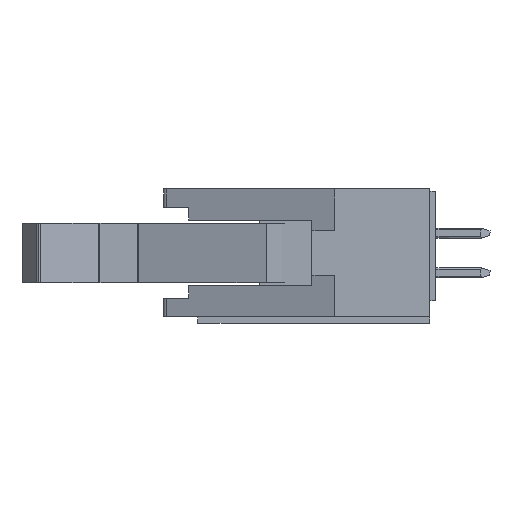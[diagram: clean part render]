
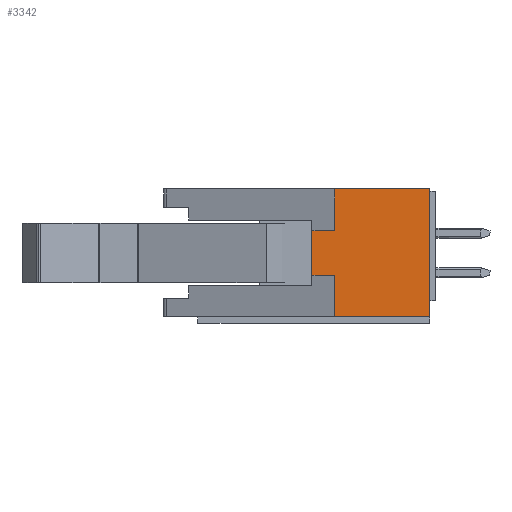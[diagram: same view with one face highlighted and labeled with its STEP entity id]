
A CAD part, left-side view. The second image highlights one B-rep face of the part: STEP entity #3342.
In plain terms, the highlighted planar face has unit normal (-1, 0, 0).
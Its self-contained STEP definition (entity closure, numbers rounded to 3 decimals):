
#142 = CARTESIAN_POINT ( 'NONE',  ( -30.07, -9.26, 4.3 ) ) ;
#616 = DIRECTION ( 'NONE',  ( 0., 0., 1. ) ) ;
#653 = VERTEX_POINT ( 'NONE', #142 ) ;
#854 = LINE ( 'NONE', #13367, #18187 ) ;
#1769 = VECTOR ( 'NONE', #19985, 1000. ) ;
#1842 = LINE ( 'NONE', #6795, #5799 ) ;
#2476 = DIRECTION ( 'NONE',  ( 1., 0., 0. ) ) ;
#2946 = AXIS2_PLACEMENT_3D ( 'NONE', #12553, #2476, #14238 ) ;
#3342 = ADVANCED_FACE ( 'NONE', ( #16042 ), #5818, .F. ) ;
#3526 = VECTOR ( 'NONE', #17646, 1000. ) ;
#3554 = CARTESIAN_POINT ( 'NONE',  ( -30.07, -7.81, 1.625 ) ) ;
#3959 = EDGE_CURVE ( 'NONE', #13690, #11482, #1842, .T. ) ;
#4457 = DIRECTION ( 'NONE',  ( 0., 0., 1. ) ) ;
#5003 = DIRECTION ( 'NONE',  ( 0., -1., 0. ) ) ;
#5058 = CARTESIAN_POINT ( 'NONE',  ( -30.07, -9.26, -1.225 ) ) ;
#5569 = EDGE_CURVE ( 'NONE', #11482, #11908, #12714, .T. ) ;
#5721 = LINE ( 'NONE', #8276, #1769 ) ;
#5773 = VERTEX_POINT ( 'NONE', #20631 ) ;
#5799 = VECTOR ( 'NONE', #20203, 1000. ) ;
#5818 = PLANE ( 'NONE',  #2946 ) ;
#6795 = CARTESIAN_POINT ( 'NONE',  ( -30.07, -9.26, -3.9 ) ) ;
#7287 = LINE ( 'NONE', #14071, #20153 ) ;
#7780 = CARTESIAN_POINT ( 'NONE',  ( -30.07, -15.36, 4.3 ) ) ;
#8276 = CARTESIAN_POINT ( 'NONE',  ( -30.07, -15.36, -3.9 ) ) ;
#8494 = VECTOR ( 'NONE', #21177, 1000. ) ;
#8922 = EDGE_CURVE ( 'NONE', #11908, #15894, #7287, .T. ) ;
#9224 = CARTESIAN_POINT ( 'NONE',  ( -30.07, -9.26, -3.9 ) ) ;
#9995 = CARTESIAN_POINT ( 'NONE',  ( -30.07, -15.36, -1.225 ) ) ;
#11482 = VERTEX_POINT ( 'NONE', #5058 ) ;
#11908 = VERTEX_POINT ( 'NONE', #14964 ) ;
#11989 = ORIENTED_EDGE ( 'NONE', *, *, #8922, .F. ) ;
#12177 = VECTOR ( 'NONE', #14986, 1000. ) ;
#12440 = LINE ( 'NONE', #12686, #3526 ) ;
#12553 = CARTESIAN_POINT ( 'NONE',  ( -30.07, -15.36, -3.9 ) ) ;
#12686 = CARTESIAN_POINT ( 'NONE',  ( -30.07, -15.36, 4.3 ) ) ;
#12714 = LINE ( 'NONE', #9995, #12177 ) ;
#12966 = LINE ( 'NONE', #7780, #8494 ) ;
#13367 = CARTESIAN_POINT ( 'NONE',  ( -30.07, -15.36, 1.625 ) ) ;
#13588 = ORIENTED_EDGE ( 'NONE', *, *, #14424, .F. ) ;
#13690 = VERTEX_POINT ( 'NONE', #9224 ) ;
#14071 = CARTESIAN_POINT ( 'NONE',  ( -30.07, -7.81, -3.9 ) ) ;
#14238 = DIRECTION ( 'NONE',  ( 0., 0., -1. ) ) ;
#14315 = ORIENTED_EDGE ( 'NONE', *, *, #3959, .F. ) ;
#14424 = EDGE_CURVE ( 'NONE', #17237, #5773, #12966, .T. ) ;
#14486 = CARTESIAN_POINT ( 'NONE',  ( -30.07, -9.26, 1.625 ) ) ;
#14561 = CARTESIAN_POINT ( 'NONE',  ( -30.07, -9.26, -3.9 ) ) ;
#14591 = EDGE_CURVE ( 'NONE', #15894, #16259, #854, .T. ) ;
#14755 = EDGE_LOOP ( 'NONE', ( #14315, #15424, #13588, #20632, #17522, #20308, #11989, #19161 ) ) ;
#14964 = CARTESIAN_POINT ( 'NONE',  ( -30.07, -7.81, -1.225 ) ) ;
#14986 = DIRECTION ( 'NONE',  ( 0., 1., 0. ) ) ;
#15388 = VECTOR ( 'NONE', #4457, 1000. ) ;
#15424 = ORIENTED_EDGE ( 'NONE', *, *, #19187, .F. ) ;
#15894 = VERTEX_POINT ( 'NONE', #3554 ) ;
#16042 = FACE_OUTER_BOUND ( 'NONE', #14755, .T. ) ;
#16259 = VERTEX_POINT ( 'NONE', #14486 ) ;
#17237 = VERTEX_POINT ( 'NONE', #17393 ) ;
#17393 = CARTESIAN_POINT ( 'NONE',  ( -30.07, -15.36, 4.3 ) ) ;
#17522 = ORIENTED_EDGE ( 'NONE', *, *, #19657, .F. ) ;
#17646 = DIRECTION ( 'NONE',  ( 0., -1., 0. ) ) ;
#18187 = VECTOR ( 'NONE', #5003, 1000. ) ;
#19161 = ORIENTED_EDGE ( 'NONE', *, *, #5569, .F. ) ;
#19187 = EDGE_CURVE ( 'NONE', #5773, #13690, #5721, .T. ) ;
#19305 = LINE ( 'NONE', #14561, #15388 ) ;
#19657 = EDGE_CURVE ( 'NONE', #16259, #653, #19305, .T. ) ;
#19985 = DIRECTION ( 'NONE',  ( 0., 1., 0. ) ) ;
#20153 = VECTOR ( 'NONE', #616, 1000. ) ;
#20203 = DIRECTION ( 'NONE',  ( 0., 0., 1. ) ) ;
#20308 = ORIENTED_EDGE ( 'NONE', *, *, #14591, .F. ) ;
#20631 = CARTESIAN_POINT ( 'NONE',  ( -30.07, -15.36, -3.9 ) ) ;
#20632 = ORIENTED_EDGE ( 'NONE', *, *, #20670, .F. ) ;
#20670 = EDGE_CURVE ( 'NONE', #653, #17237, #12440, .T. ) ;
#21177 = DIRECTION ( 'NONE',  ( 0., 0., -1. ) ) ;
